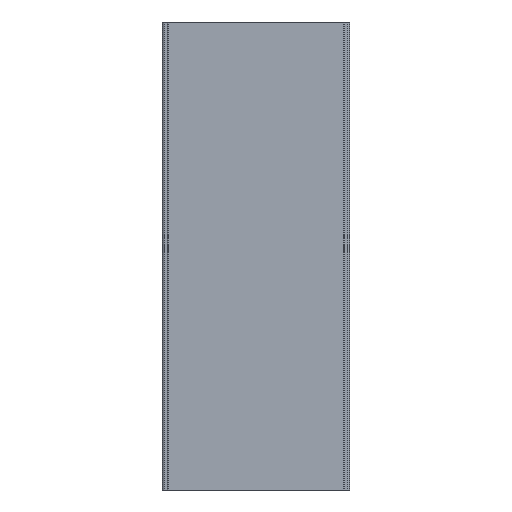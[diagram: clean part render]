
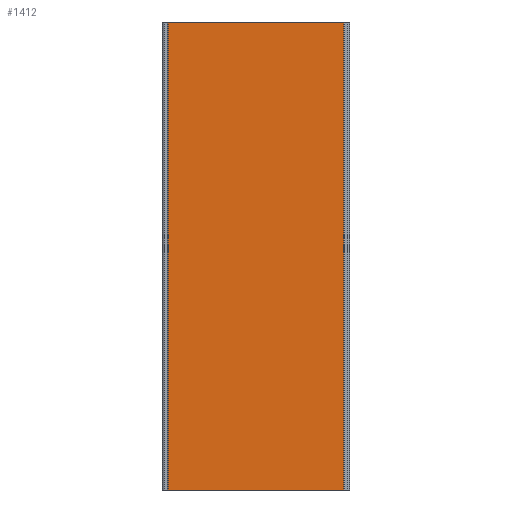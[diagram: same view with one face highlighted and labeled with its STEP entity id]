
A CAD part, front view. The second image highlights one B-rep face of the part: STEP entity #1412.
In plain terms, the highlighted planar face has unit normal (0, -1, 0).
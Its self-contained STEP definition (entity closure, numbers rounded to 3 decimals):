
#1354=CARTESIAN_POINT('',(-18.8,-38.,0.0));
#1355=VERTEX_POINT('',#1354);
#1363=CARTESIAN_POINT('',(-18.8,-38.,100.0));
#1364=VERTEX_POINT('',#1363);
#1365=CARTESIAN_POINT('',(-18.8,-38.,100.0));
#1366=DIRECTION('',(0.0,0.0,-1.0));
#1367=VECTOR('',#1366,100.0);
#1368=LINE('',#1365,#1367);
#1369=EDGE_CURVE('',#1364,#1355,#1368,.T.);
#1382=CARTESIAN_POINT('',(-18.8,-38.,100.0));
#1383=DIRECTION('',(0.0,-1.0,0.0));
#1384=DIRECTION('',(0.0,0.0,-1.0));
#1385=AXIS2_PLACEMENT_3D('',#1382,#1383,#1384);
#1386=PLANE('',#1385);
#1387=CARTESIAN_POINT('',(18.8,-38.,0.0));
#1388=VERTEX_POINT('',#1387);
#1389=CARTESIAN_POINT('',(18.8,-38.,0.0));
#1390=DIRECTION('',(-1.0,0.0,0.0));
#1391=VECTOR('',#1390,37.6);
#1392=LINE('',#1389,#1391);
#1393=EDGE_CURVE('',#1388,#1355,#1392,.T.);
#1394=ORIENTED_EDGE('',*,*,#1393,.F.);
#1395=CARTESIAN_POINT('',(18.8,-38.,100.0));
#1396=VERTEX_POINT('',#1395);
#1397=CARTESIAN_POINT('',(18.8,-38.,100.0));
#1398=DIRECTION('',(0.0,0.0,-1.0));
#1399=VECTOR('',#1398,100.0);
#1400=LINE('',#1397,#1399);
#1401=EDGE_CURVE('',#1396,#1388,#1400,.T.);
#1402=ORIENTED_EDGE('',*,*,#1401,.F.);
#1403=CARTESIAN_POINT('',(18.8,-38.,100.0));
#1404=DIRECTION('',(-1.0,0.0,0.0));
#1405=VECTOR('',#1404,37.6);
#1406=LINE('',#1403,#1405);
#1407=EDGE_CURVE('',#1396,#1364,#1406,.T.);
#1408=ORIENTED_EDGE('',*,*,#1407,.T.);
#1409=ORIENTED_EDGE('',*,*,#1369,.T.);
#1410=EDGE_LOOP('',(#1394,#1402,#1408,#1409));
#1411=FACE_OUTER_BOUND('',#1410,.T.);
#1412=ADVANCED_FACE('',(#1411),#1386,.T.);
